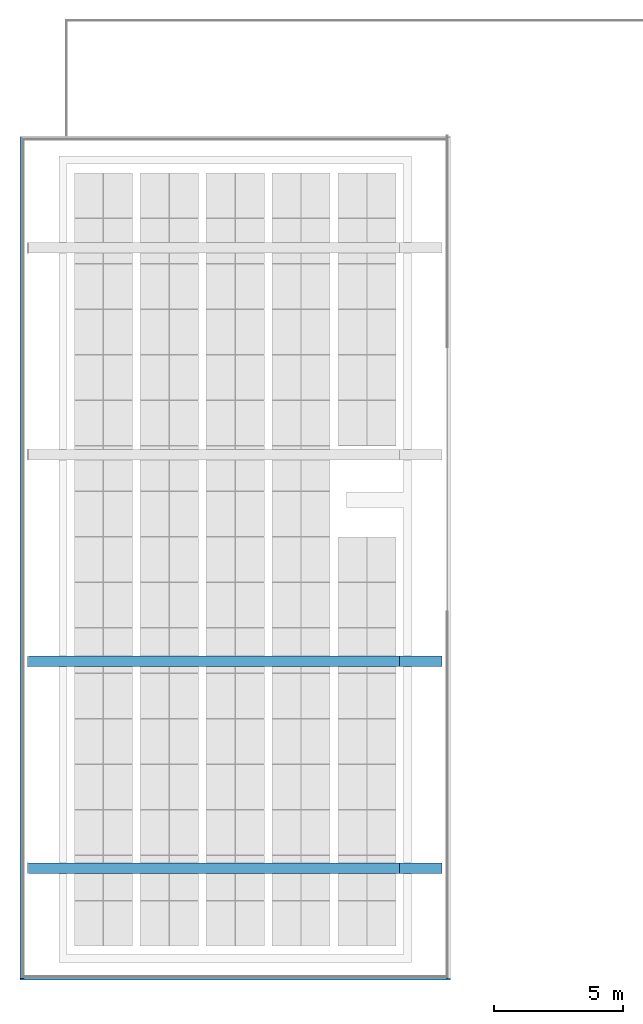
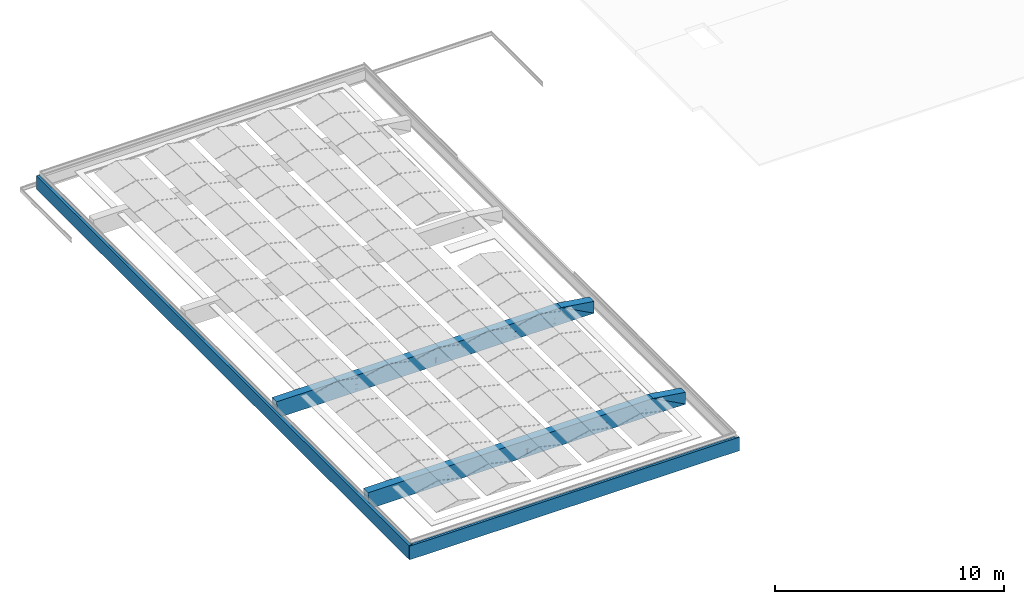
# One storey, part 2 of 25: 6 beams.
"""IFC2X3 building model written with IfcOpenShell, lengths in millimetres."""

from ifc_helpers import new_model, entity, si_unit, converted_unit, derived_unit, money_unit, direction, frame, origin_with_axes, place, context, subcontext, project, spatial, faceted_brep, material, type_object, element, save


model = new_model("IFC2X3")

# Units and contexts
model_context = context("Model", 3, precision=0.01, world=origin_with_axes(), true_north=direction((0.0, 1.0)))
body_context = subcontext(model_context, "Body", "Model", "MODEL_VIEW")
ifc_project = project(units=[si_unit("LENGTHUNIT", "METRE", prefix="MILLI"), si_unit("AREAUNIT", "SQUARE_METRE"), si_unit("VOLUMEUNIT", "CUBIC_METRE"), converted_unit("PLANEANGLEUNIT", "DEGREE", entity("IfcPlaneAngleMeasure", 0.0174532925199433), si_unit("PLANEANGLEUNIT", "RADIAN"), dimensions=[0, 0, 0, 0, 0, 0, 0]), money_unit("EUR"), converted_unit("TIMEUNIT", "Year", entity("IfcTimeMeasure", 31557600.0), si_unit("TIMEUNIT", "SECOND"), dimensions=[0, 0, 1, 0, 0, 0, 0]), si_unit("MASSUNIT", "GRAM", prefix="KILO"), si_unit("THERMODYNAMICTEMPERATUREUNIT", "DEGREE_CELSIUS"), si_unit("LUMINOUSINTENSITYUNIT", "LUMEN"), si_unit("ENERGYUNIT", "JOULE", prefix="MEGA"), derived_unit("THERMALCONDUCTANCEUNIT", [(si_unit("POWERUNIT", "WATT"), 1), (si_unit("LENGTHUNIT", "METRE"), -1), (si_unit("THERMODYNAMICTEMPERATUREUNIT", "KELVIN"), -1)]), derived_unit("SPECIFICHEATCAPACITYUNIT", [(si_unit("ENERGYUNIT", "JOULE"), 1), (si_unit("MASSUNIT", "GRAM", prefix="KILO"), -1), (si_unit("THERMODYNAMICTEMPERATUREUNIT", "KELVIN"), -1)]), derived_unit("MASSDENSITYUNIT", [(si_unit("MASSUNIT", "GRAM", prefix="KILO"), 1), (si_unit("VOLUMEUNIT", "CUBIC_METRE"), -1)])], contexts=[model_context])

# Site, building, storey
site_placement = place(None, origin_with_axes())
site = spatial("IfcSite", under=ifc_project, at=site_placement, Name="<site naam>", CompositionType="ELEMENT")
building_placement = place(site_placement, origin_with_axes())
building = spatial("IfcBuilding", under=site, at=building_placement, Name="<Naam gebouw>", CompositionType="ELEMENT")
storey_placement = place(building_placement, frame((0.0, 0.0, 9563.0), z_axis=(0.0, 0.0, 1.0), x_axis=(1.0, 0.0, 0.0)))
storey = spatial("IfcBuildingStorey", under=building, at=storey_placement, Name="03 3e tussenverdieping", CompositionType="ELEMENT", Elevation=9563.0)

# Beams
ifc_material = material(Name="beton_gewapend_prefab")
beam_type_1 = type_object("IfcBeamType", Name="Betonbanden 160 x 760", PredefinedType="BEAM")
beam_1_placement = place(storey_placement, frame((-12264.99999999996, -12267.03171934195, -992.9999592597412), z_axis=(0.0, 0.0, 1.0), x_axis=(0.0, -1.0, 0.0)))
element("IfcBeam", 1, at=beam_1_placement, inside=storey, type_object=beam_type_1, material=ifc_material, Name="41_Balk_Betonbanden", ObjectType="BEAM", context=body_context, shape_type="Brep", body=[
    faceted_brep([(29.99999527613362, 16600.04446573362, -759.9999375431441), (29.99999527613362, 16600.04446573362, -730.0000145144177), (7.958368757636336, 16600.04446573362, -730.0000145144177), (7.958368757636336, 16600.04446573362, -30.00000230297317), (59.99999757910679, 16600.04446573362, -30.00000230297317), (59.99999757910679, 16600.04446573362, -759.9999375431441), (29.99999527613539, -59.99999757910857, -730.0000145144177), (29.99999527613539, -59.99999757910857, -759.9999375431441), (4.298053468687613e-06, 60.00000030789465, -730.0000145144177), (4.298051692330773e-06, 16480.04446784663, -730.0000145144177), (7.958368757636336, 16480.04446784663, -730.0000145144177), (7.958368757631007, -59.99999757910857, -730.0000145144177), (7.958368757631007, 60.00000030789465, -730.0000145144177), (7.958368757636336, 16440.04446100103, -100.0000001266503), (7.958368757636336, 16440.04446100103, -30.00000230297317), (7.958368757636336, 16480.04446784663, -30.00000230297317), (7.958368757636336, 16480.04446784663, -660.0000280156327), (7.958368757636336, 16540.04447245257, -660.0000280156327), (7.958368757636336, 16540.04447245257, -100.0000001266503), (-60.00000030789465, 16440.04446100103, -30.00000230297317), (-60.00000030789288, 100.0000071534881, -30.00000230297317), (7.958368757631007, 100.0000071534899, -30.00000230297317), (7.958368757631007, 60.00000030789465, -30.00000230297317), (7.958368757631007, -59.99999757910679, -30.00000230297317), (59.99999757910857, -59.99999757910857, -30.00000230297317), (59.99999757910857, -59.99999757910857, -759.9999375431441), (4.298053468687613e-06, 60.00000030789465, -759.9999375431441), (4.298051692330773e-06, 16480.04446784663, -759.9999375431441), (-60.00000030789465, 16480.04446784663, -759.9999375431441), (-60.00000030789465, 16480.04446784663, -660.0000280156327), (-29.99999800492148, 16480.04446784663, -660.0000280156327), (-29.99999800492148, 16480.04446784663, -690.0000385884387), (4.298051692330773e-06, 16480.04446784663, -690.0000385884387), (4.298051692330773e-06, 16480.04446784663, -660.0000280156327), (7.958368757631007, 100.0000071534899, -100.0000001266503), (7.958368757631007, -4.298053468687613e-06, -100.0000001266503), (7.958368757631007, -4.298053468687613e-06, -660.0000280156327), (7.958368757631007, 60.00000030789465, -660.0000280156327), (4.298053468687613e-06, 60.00000030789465, -660.0000280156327), (4.298053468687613e-06, 60.00000030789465, -690.0000385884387), (-29.9999980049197, 60.00000030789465, -690.0000385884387), (-29.9999980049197, 60.00000030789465, -660.0000280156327), (-60.00000030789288, 60.00000030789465, -660.0000280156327), (-60.00000030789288, 60.00000030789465, -759.9999375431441), (4.298051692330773e-06, 16440.04446100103, -100.0000001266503), (-100.0000071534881, 16440.04446100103, -100.0000001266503), (-100.0000071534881, 16440.04446100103, 0.0), (-60.00000030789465, 16440.04446100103, 0.0), (4.298051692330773e-06, 16540.04447245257, -660.0000280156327), (4.298051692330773e-06, 16540.04447245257, -100.0000001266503), (-60.00000030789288, 100.0000071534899, 0.0), (-100.0000071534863, 100.0000071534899, 0.0), (-100.0000071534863, 100.0000071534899, -100.0000001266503), (4.298053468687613e-06, 100.0000071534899, -100.0000001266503), (4.298053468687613e-06, -4.298053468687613e-06, -660.0000280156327), (4.298053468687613e-06, -4.298053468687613e-06, -100.0000001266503)], [[[0, 1, 2, 3, 4, 5]], [[6, 1, 0, 7]], [[8, 9, 10, 2, 1, 6, 11, 12]], [[13, 14, 15, 3, 2, 10, 16, 17, 18]], [[3, 15, 14, 19, 20, 21, 22, 23, 24, 4]], [[25, 5, 4, 24]], [[7, 0, 5, 25]], [[7, 25, 24, 23, 11, 6]], [[8, 26, 27, 9]], [[9, 27, 28, 29, 30, 31, 32, 33, 16, 10]], [[12, 11, 23, 22, 21, 34, 35, 36, 37]], [[38, 39, 40, 41, 42, 43, 26, 8, 12, 37]], [[13, 44, 45, 46, 47, 19, 14]], [[17, 16, 33, 48]], [[18, 17, 48, 49]], [[13, 18, 49, 44]], [[50, 20, 19, 47]], [[34, 21, 20, 50, 51, 52, 53]], [[26, 43, 28, 27]], [[43, 42, 29, 28]], [[42, 41, 30, 29]], [[41, 40, 31, 30]], [[40, 39, 32, 31]], [[49, 48, 33, 32, 39, 38, 54, 55, 53, 44]], [[55, 35, 34, 53]], [[54, 36, 35, 55]], [[38, 37, 36, 54]], [[53, 52, 45, 44]], [[52, 51, 46, 45]], [[51, 50, 47, 46]]]),
])
beam_2_placement = place(storey_placement, frame((-12264.99999999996, 20275.00000000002, -992.9999592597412), z_axis=(0.0, 0.0, 1.0), x_axis=(-1.0, 0.0, 0.0)))
element("IfcBeam", 2, at=beam_2_placement, inside=storey, type_object=beam_type_1, material=ifc_material, Name="41_Balk_Betonbanden", ObjectType="BEAM", context=body_context, shape_type="Brep", body=[
    faceted_brep([(-60.00000030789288, 0.0, 0.0), (-60.00000030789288, 0.0, -30.00000230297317), (-60.00000030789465, 32549.9900880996, -30.00000230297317), (-60.00000030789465, 32549.9900880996, 0.0), (59.99999757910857, 0.0, -759.9999375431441), (59.99999757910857, 0.0, -30.00000230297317), (-100.0000071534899, 0.0, 0.0), (-100.0000071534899, 0.0, -100.0000001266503), (4.298053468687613e-06, 0.0, -100.0000001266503), (4.298053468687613e-06, 0.0, -690.0000385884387), (-29.9999980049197, 0.0, -690.0000385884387), (-29.9999980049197, 0.0, -660.0000280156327), (-60.00000030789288, 0.0, -660.0000280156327), (-60.00000030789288, 0.0, -759.9999375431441), (4.298053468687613e-06, 0.0, -759.9999375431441), (4.298053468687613e-06, 0.0, -730.0000145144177), (29.99999527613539, 0.0, -730.0000145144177), (29.99999527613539, 0.0, -759.9999375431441), (59.99999757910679, 32549.9900880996, -30.00000230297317), (-100.0000071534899, 32549.9900880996, 0.0), (59.99999757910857, 32549.9900880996, -759.9999375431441), (29.99999527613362, 32549.9900880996, -759.9999375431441), (29.99999527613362, 32549.9900880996, -730.0000145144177), (4.298053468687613e-06, 32549.9900880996, -730.0000145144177), (4.298053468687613e-06, 32549.9900880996, -759.9999375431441), (-60.00000030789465, 32549.9900880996, -759.9999375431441), (-60.00000030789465, 32549.9900880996, -660.0000280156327), (-29.9999980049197, 32549.9900880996, -660.0000280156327), (-29.9999980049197, 32549.9900880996, -690.0000385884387), (4.298053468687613e-06, 32549.9900880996, -690.0000385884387), (4.298053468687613e-06, 32549.9900880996, -100.0000001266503), (-100.0000071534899, 32549.9900880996, -100.0000001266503)], [[[0, 1, 2, 3]], [[4, 5, 1, 0, 6, 7, 8, 9, 10, 11, 12, 13, 14, 15, 16, 17]], [[1, 5, 18, 2]], [[19, 3, 2, 18, 20, 21, 22, 23, 24, 25, 26, 27, 28, 29, 30, 31]], [[6, 0, 3, 19]], [[5, 4, 20, 18]], [[7, 6, 19, 31]], [[8, 7, 31, 30]], [[9, 8, 30, 29]], [[10, 9, 29, 28]], [[11, 10, 28, 27]], [[12, 11, 27, 26]], [[13, 12, 26, 25]], [[14, 13, 25, 24]], [[15, 14, 24, 23]], [[16, 15, 23, 22]], [[17, 16, 22, 21]], [[4, 17, 21, 20]]]),
])
beam_type_2 = type_object("IfcBeamType", Name="beton_gewapend_prefab 400 x 880", PredefinedType="BEAM")
beam_3_placement = place(storey_placement, frame((-10349.99999999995, -7999.999999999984, -773.0000000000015), z_axis=(0.0, 0.0, 1.0), x_axis=(0.0, -1.0, 0.0)))
element("IfcBeam", 3, at=beam_3_placement, inside=storey, type_object=beam_type_2, material=ifc_material, Name="28_Balk_beton_gewapend_prefab", ObjectType="BEAM", context=body_context, shape_type="Brep", body=[
    faceted_brep([(200.000000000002, -1625.067700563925, -879.9999999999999), (199.9999999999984, 14350.00064523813, -879.9999999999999), (199.9999999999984, 12700.0, 0.0), (200.000000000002, -1685.000000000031, 0.0), (199.9999999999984, 12293.49995746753, -730.0002447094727), (199.9999999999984, 12293.49999705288, -715.9002124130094), (199.9999999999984, 12345.30019652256, -715.9002124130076), (199.9999999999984, 12345.30019652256, -484.0999999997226), (199.9999999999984, 12293.49999705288, -484.0999999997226), (199.9999999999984, 12293.49995746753, -469.9999999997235), (199.9999999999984, 12406.50043557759, -469.9999999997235), (199.9999999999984, 12406.50039599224, -484.0999999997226), (199.9999999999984, 12354.70019652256, -484.0999999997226), (199.9999999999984, 12354.70019652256, -715.9002124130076), (199.9999999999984, 12406.50039599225, -715.9002124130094), (199.9999999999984, 12406.50043557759, -730.0002447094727), (199.9999999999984, 10293.49999705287, -715.9002124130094), (199.9999999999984, 10345.30019652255, -715.9002124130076), (199.9999999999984, 10345.30019652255, -484.0999999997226), (199.9999999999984, 10293.49999705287, -484.0999999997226), (199.9999999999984, 10293.49995746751, -469.9999999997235), (199.9999999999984, 10406.50043557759, -469.9999999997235), (199.9999999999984, 10406.50039599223, -484.0999999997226), (199.9999999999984, 10354.70019652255, -484.0999999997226), (199.9999999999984, 10354.70019652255, -715.9002124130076), (199.9999999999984, 10406.50039599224, -715.9002124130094), (199.9999999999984, 10406.50043557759, -730.0002447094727), (199.9999999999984, 10293.49995746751, -730.0002447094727), (199.9999999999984, 6345.299999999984, -715.9002124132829), (199.9999999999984, 6345.299999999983, -484.099999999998), (199.9999999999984, 6293.499800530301, -484.099999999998), (199.9999999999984, 6293.499760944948, -469.9999999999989), (199.9999999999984, 6406.500239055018, -469.9999999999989), (199.9999999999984, 6406.500199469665, -484.099999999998), (199.9999999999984, 6354.699999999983, -484.099999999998), (199.9999999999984, 6354.699999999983, -715.9002124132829), (199.9999999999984, 6406.50019946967, -715.9002124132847), (199.9999999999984, 6406.500239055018, -730.000244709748), (199.9999999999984, 6293.499760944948, -730.000244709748), (199.9999999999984, 6293.499800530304, -715.9002124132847), (199.9999999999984, 2345.300196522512, -484.0999992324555), (199.9999999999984, 2293.499997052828, -484.0999992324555), (199.9999999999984, 2293.499957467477, -469.9999992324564), (199.9999999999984, 2406.500435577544, -469.9999992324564), (199.9999999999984, 2406.500395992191, -484.0999992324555), (199.9999999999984, 2354.700196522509, -484.0999992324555), (199.9999999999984, 2354.700196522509, -715.9002116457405), (199.9999999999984, 2406.500395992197, -715.9002116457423), (199.9999999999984, 2406.500435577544, -730.0002439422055), (199.9999999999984, 2293.499957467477, -730.0002439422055), (199.9999999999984, 2293.499997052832, -715.9002116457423), (199.9999999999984, 2345.300196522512, -715.9002116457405), (-199.9999999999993, -1625.067700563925, -879.9999999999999), (-200.0000000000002, 14350.00064523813, -879.9999999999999), (-200.0000000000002, 12700.0, 0.0), (-200.0000000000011, -1685.000000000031, 0.0), (-200.0000000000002, 12293.49995746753, -730.0002447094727), (-200.0000000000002, 12293.49999705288, -715.9002124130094), (-200.0000000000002, 12345.30019652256, -715.9002124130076), (-200.0000000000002, 12345.30019652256, -484.0999999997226), (-200.0000000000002, 12293.49999705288, -484.0999999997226), (-200.0000000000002, 12293.49995746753, -469.9999999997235), (-200.0000000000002, 12406.50043557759, -469.9999999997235), (-200.0000000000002, 12406.50039599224, -484.0999999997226), (-200.0000000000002, 12354.70019652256, -484.0999999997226), (-200.0000000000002, 12354.70019652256, -715.9002124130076), (-200.0000000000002, 12406.50039599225, -715.9002124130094), (-200.0000000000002, 12406.50043557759, -730.0002447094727), (-200.0000000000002, 10345.30019652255, -715.9002124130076), (-200.0000000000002, 10293.49999705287, -715.9002124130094), (-200.0000000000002, 10345.30019652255, -484.0999999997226), (-200.0000000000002, 10293.49999705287, -484.0999999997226), (-200.0000000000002, 10293.49995746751, -469.9999999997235), (-200.0000000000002, 10406.50043557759, -469.9999999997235), (-200.0000000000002, 10406.50039599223, -484.0999999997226), (-200.0000000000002, 10354.70019652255, -484.0999999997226), (-200.0000000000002, 10354.70019652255, -715.9002124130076), (-200.0000000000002, 10406.50039599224, -715.9002124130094), (-200.0000000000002, 10406.50043557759, -730.0002447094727), (-200.0000000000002, 10293.49995746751, -730.0002447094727), (-200.0000000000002, 6345.299999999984, -715.9002124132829), (-200.0000000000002, 6345.299999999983, -484.099999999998), (-200.0000000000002, 6293.499800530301, -484.099999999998), (-200.0000000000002, 6293.499760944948, -469.9999999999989), (-200.0000000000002, 6406.500239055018, -469.9999999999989), (-200.0000000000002, 6406.500199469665, -484.099999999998), (-200.0000000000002, 6354.699999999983, -484.099999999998), (-200.0000000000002, 6354.699999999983, -715.9002124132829), (-200.0000000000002, 6406.50019946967, -715.9002124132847), (-200.0000000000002, 6406.500239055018, -730.000244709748), (-200.0000000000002, 6293.499760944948, -730.000244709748), (-200.0000000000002, 6293.499800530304, -715.9002124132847), (-200.0000000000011, 2345.300196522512, -484.0999992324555), (-200.0000000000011, 2293.499997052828, -484.0999992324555), (-200.0000000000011, 2293.499957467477, -469.9999992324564), (-200.0000000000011, 2406.500435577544, -469.9999992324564), (-200.0000000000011, 2406.500395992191, -484.0999992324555), (-200.0000000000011, 2354.700196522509, -484.0999992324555), (-200.0000000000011, 2354.700196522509, -715.9002116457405), (-200.0000000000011, 2406.500395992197, -715.9002116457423), (-200.0000000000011, 2406.500435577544, -730.0002439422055), (-200.0000000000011, 2293.499957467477, -730.0002439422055), (-200.0000000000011, 2293.499997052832, -715.9002116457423), (-200.0000000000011, 2345.300196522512, -715.9002116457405)], [[[0, 1, 2, 3], [4, 5, 6, 7, 8, 9, 10, 11, 12, 13, 14, 15], [16, 17, 18, 19, 20, 21, 22, 23, 24, 25, 26, 27], [28, 29, 30, 31, 32, 33, 34, 35, 36, 37, 38, 39], [40, 41, 42, 43, 44, 45, 46, 47, 48, 49, 50, 51]], [[52, 53, 1, 0]], [[1, 53, 54, 2]], [[3, 2, 54, 55]], [[55, 52, 0, 3]], [[56, 57, 5, 4]], [[57, 58, 6, 5]], [[58, 59, 7, 6]], [[59, 60, 8, 7]], [[60, 61, 9, 8]], [[61, 62, 10, 9]], [[62, 63, 11, 10]], [[63, 64, 12, 11]], [[64, 65, 13, 12]], [[65, 66, 14, 13]], [[66, 67, 15, 14]], [[67, 56, 4, 15]], [[68, 17, 16, 69]], [[70, 18, 17, 68]], [[71, 19, 18, 70]], [[72, 20, 19, 71]], [[73, 21, 20, 72]], [[74, 22, 21, 73]], [[75, 23, 22, 74]], [[76, 24, 23, 75]], [[77, 25, 24, 76]], [[78, 26, 25, 77]], [[79, 27, 26, 78]], [[69, 16, 27, 79]], [[29, 28, 80, 81]], [[30, 29, 81, 82]], [[31, 30, 82, 83]], [[32, 31, 83, 84]], [[33, 32, 84, 85]], [[34, 33, 85, 86]], [[35, 34, 86, 87]], [[36, 35, 87, 88]], [[37, 36, 88, 89]], [[38, 37, 89, 90]], [[39, 38, 90, 91]], [[28, 39, 91, 80]], [[40, 92, 93, 41]], [[41, 93, 94, 42]], [[42, 94, 95, 43]], [[43, 95, 96, 44]], [[44, 96, 97, 45]], [[45, 97, 98, 46]], [[46, 98, 99, 47]], [[47, 99, 100, 48]], [[48, 100, 101, 49]], [[49, 101, 102, 50]], [[50, 102, 103, 51]], [[51, 103, 92, 40]], [[55, 54, 53, 52], [56, 67, 66, 65, 64, 63, 62, 61, 60, 59, 58, 57], [78, 77, 76, 75, 74, 73, 72, 71, 70, 68, 69, 79], [88, 87, 86, 85, 84, 83, 82, 81, 80, 91, 90, 89], [98, 97, 96, 95, 94, 93, 92, 103, 102, 101, 100, 99]]]),
])
beam_4_placement = place(storey_placement, frame((-10349.99999999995, 0.0, -773.0000000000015), z_axis=(0.0, 0.0, 1.0), x_axis=(0.0, -1.0, 0.0)))
element("IfcBeam", 4, at=beam_4_placement, inside=storey, type_object=beam_type_2, material=ifc_material, Name="28_Balk_beton_gewapend_prefab", ObjectType="BEAM", context=body_context, shape_type="Brep", body=[
    faceted_brep([(200.0000000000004, -1625.067700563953, -879.9999999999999), (199.9999999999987, 14350.00064523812, -879.9999999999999), (199.999999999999, 12700.0, 0.0), (200.0000000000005, -1685.000000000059, 0.0), (199.9999999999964, 12293.49995746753, -730.0002447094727), (199.9999999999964, 12293.49999705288, -715.9002124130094), (199.9999999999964, 12345.30019652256, -715.9002124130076), (199.9999999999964, 12345.30019652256, -484.0999999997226), (199.9999999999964, 12293.49999705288, -484.0999999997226), (199.9999999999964, 12293.49995746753, -469.9999999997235), (199.9999999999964, 12406.50043557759, -469.9999999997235), (199.9999999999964, 12406.50039599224, -484.0999999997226), (199.9999999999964, 12354.70019652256, -484.0999999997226), (199.9999999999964, 12354.70019652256, -715.9002124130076), (199.9999999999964, 12406.50039599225, -715.9002124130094), (199.9999999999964, 12406.50043557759, -730.0002447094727), (200.0000000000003, 10293.49999705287, -715.9002124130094), (200.0000000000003, 10345.30019652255, -715.9002124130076), (200.0000000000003, 10345.30019652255, -484.0999999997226), (200.0000000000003, 10293.49999705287, -484.0999999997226), (200.0000000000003, 10293.49995746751, -469.9999999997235), (200.0000000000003, 10406.50043557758, -469.9999999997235), (200.0000000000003, 10406.50039599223, -484.0999999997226), (200.0000000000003, 10354.70019652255, -484.0999999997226), (200.0000000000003, 10354.70019652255, -715.9002124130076), (200.0000000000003, 10406.50039599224, -715.9002124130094), (200.0000000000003, 10406.50043557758, -730.0002447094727), (200.0000000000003, 10293.49995746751, -730.0002447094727), (200.0000000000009, 6345.299999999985, -715.9002124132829), (200.0000000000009, 6345.299999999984, -484.099999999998), (200.000000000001, 6293.499800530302, -484.099999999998), (200.000000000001, 6293.499760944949, -469.9999999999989), (200.0000000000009, 6406.500239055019, -469.9999999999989), (200.0000000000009, 6406.500199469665, -484.099999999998), (200.0000000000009, 6354.699999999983, -484.099999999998), (200.0000000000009, 6354.699999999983, -715.9002124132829), (200.0000000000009, 6406.50019946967, -715.9002124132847), (200.0000000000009, 6406.500239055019, -730.000244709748), (200.000000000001, 6293.499760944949, -730.000244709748), (200.000000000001, 6293.499800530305, -715.9002124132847), (199.999999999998, 2345.300196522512, -484.0999992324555), (199.999999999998, 2293.499997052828, -484.0999992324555), (199.999999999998, 2293.499957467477, -469.9999992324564), (199.999999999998, 2406.500435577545, -469.9999992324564), (199.999999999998, 2406.500395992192, -484.0999992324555), (199.999999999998, 2354.700196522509, -484.0999992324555), (199.999999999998, 2354.700196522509, -715.9002116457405), (199.999999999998, 2406.500395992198, -715.9002116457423), (199.999999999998, 2406.500435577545, -730.0002439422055), (199.999999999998, 2293.499957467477, -730.0002439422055), (199.999999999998, 2293.499997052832, -715.9002116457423), (199.999999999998, 2345.300196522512, -715.9002116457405), (-199.9999999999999, -1625.067700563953, -879.9999999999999), (-200.0000000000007, 14350.00064523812, -879.9999999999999), (-200.0000000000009, 12700.0, 0.0), (-199.9999999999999, -1685.000000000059, 0.0), (-200.0000000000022, 12293.49995746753, -730.0002447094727), (-200.0000000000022, 12293.49999705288, -715.9002124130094), (-200.0000000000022, 12345.30019652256, -715.9002124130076), (-200.0000000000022, 12345.30019652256, -484.0999999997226), (-200.0000000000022, 12293.49999705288, -484.0999999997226), (-200.0000000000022, 12293.49995746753, -469.9999999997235), (-200.0000000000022, 12406.50043557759, -469.9999999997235), (-200.0000000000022, 12406.50039599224, -484.0999999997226), (-200.0000000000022, 12354.70019652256, -484.0999999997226), (-200.0000000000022, 12354.70019652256, -715.9002124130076), (-200.0000000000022, 12406.50039599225, -715.9002124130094), (-200.0000000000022, 12406.50043557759, -730.0002447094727), (-200.0000000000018, 10345.30019652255, -715.9002124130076), (-200.0000000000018, 10293.49999705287, -715.9002124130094), (-200.0000000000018, 10345.30019652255, -484.0999999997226), (-200.0000000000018, 10293.49999705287, -484.0999999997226), (-200.0000000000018, 10293.49995746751, -469.9999999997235), (-200.0000000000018, 10406.50043557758, -469.9999999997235), (-200.0000000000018, 10406.50039599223, -484.0999999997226), (-200.0000000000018, 10354.70019652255, -484.0999999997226), (-200.0000000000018, 10354.70019652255, -715.9002124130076), (-200.0000000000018, 10406.50039599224, -715.9002124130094), (-200.0000000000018, 10406.50043557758, -730.0002447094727), (-200.0000000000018, 10293.49995746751, -730.0002447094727), (-200.0000000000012, 6345.299999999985, -715.9002124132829), (-200.0000000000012, 6345.299999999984, -484.099999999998), (-200.0000000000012, 6293.499800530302, -484.099999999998), (-200.0000000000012, 6293.499760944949, -469.9999999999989), (-200.0000000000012, 6406.500239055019, -469.9999999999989), (-200.0000000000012, 6406.500199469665, -484.099999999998), (-200.0000000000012, 6354.699999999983, -484.099999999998), (-200.0000000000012, 6354.699999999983, -715.9002124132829), (-200.0000000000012, 6406.50019946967, -715.9002124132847), (-200.0000000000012, 6406.500239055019, -730.000244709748), (-200.0000000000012, 6293.499760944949, -730.000244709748), (-200.0000000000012, 6293.499800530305, -715.9002124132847), (-200.0000000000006, 2345.300196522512, -484.0999992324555), (-200.0000000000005, 2293.499997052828, -484.0999992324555), (-200.0000000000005, 2293.499957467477, -469.9999992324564), (-200.0000000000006, 2406.500435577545, -469.9999992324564), (-200.0000000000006, 2406.500395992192, -484.0999992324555), (-200.0000000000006, 2354.700196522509, -484.0999992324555), (-200.0000000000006, 2354.700196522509, -715.9002116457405), (-200.0000000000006, 2406.500395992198, -715.9002116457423), (-200.0000000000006, 2406.500435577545, -730.0002439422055), (-200.0000000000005, 2293.499957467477, -730.0002439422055), (-200.0000000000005, 2293.499997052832, -715.9002116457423), (-200.0000000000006, 2345.300196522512, -715.9002116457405)], [[[0, 1, 2, 3], [4, 5, 6, 7, 8, 9, 10, 11, 12, 13, 14, 15], [16, 17, 18, 19, 20, 21, 22, 23, 24, 25, 26, 27], [28, 29, 30, 31, 32, 33, 34, 35, 36, 37, 38, 39], [40, 41, 42, 43, 44, 45, 46, 47, 48, 49, 50, 51]], [[52, 53, 1, 0]], [[1, 53, 54, 2]], [[3, 2, 54, 55]], [[55, 52, 0, 3]], [[56, 57, 5, 4]], [[57, 58, 6, 5]], [[58, 59, 7, 6]], [[59, 60, 8, 7]], [[60, 61, 9, 8]], [[61, 62, 10, 9]], [[62, 63, 11, 10]], [[63, 64, 12, 11]], [[64, 65, 13, 12]], [[65, 66, 14, 13]], [[66, 67, 15, 14]], [[67, 56, 4, 15]], [[68, 17, 16, 69]], [[70, 18, 17, 68]], [[71, 19, 18, 70]], [[72, 20, 19, 71]], [[73, 21, 20, 72]], [[74, 22, 21, 73]], [[75, 23, 22, 74]], [[76, 24, 23, 75]], [[77, 25, 24, 76]], [[78, 26, 25, 77]], [[79, 27, 26, 78]], [[69, 16, 27, 79]], [[29, 28, 80, 81]], [[30, 29, 81, 82]], [[31, 30, 82, 83]], [[32, 31, 83, 84]], [[33, 32, 84, 85]], [[34, 33, 85, 86]], [[35, 34, 86, 87]], [[36, 35, 87, 88]], [[37, 36, 88, 89]], [[38, 37, 89, 90]], [[39, 38, 90, 91]], [[28, 39, 91, 80]], [[40, 92, 93, 41]], [[41, 93, 94, 42]], [[42, 94, 95, 43]], [[43, 95, 96, 44]], [[44, 96, 97, 45]], [[45, 97, 98, 46]], [[46, 98, 99, 47]], [[47, 99, 100, 48]], [[48, 100, 101, 49]], [[49, 101, 102, 50]], [[50, 102, 103, 51]], [[51, 103, 92, 40]], [[55, 54, 53, 52], [56, 67, 66, 65, 64, 63, 62, 61, 60, 59, 58, 57], [78, 77, 76, 75, 74, 73, 72, 71, 70, 68, 69, 79], [88, 87, 86, 85, 84, 83, 82, 81, 80, 91, 90, 89], [98, 97, 96, 95, 94, 93, 92, 103, 102, 101, 100, 99]]]),
])
beam_type_3 = type_object("IfcBeamType", Name="beton_gewapend_prefab 400 x 900", PredefinedType="BEAM")
beam_5_placement = place(storey_placement, frame((2350.000000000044, 0.0, -773.0000000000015), z_axis=(0.0, 0.0, 1.0), x_axis=(0.0, -1.0, 0.0)))
element("IfcBeam", 5, at=beam_5_placement, inside=storey, type_object=beam_type_3, material=ifc_material, Name="28_Balk_beton_gewapend_prefab", ObjectType="BEAM", context=body_context, shape_type="Brep", body=[
    faceted_brep([(-200.0000000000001, 1649.999999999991, -879.9996558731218), (-200.0, 0.0, 0.0), (-200.0000000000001, 1649.999999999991, -246.1932683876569), (200.0, 0.0, 0.0), (199.9999999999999, 1649.999999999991, -879.9996558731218), (199.9999999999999, 1649.999999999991, -246.1932683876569)], [[[0, 1, 2]], [[3, 1, 0, 4]], [[1, 3, 5, 2]], [[0, 2, 5, 4]], [[4, 5, 3]]]),
])
beam_6_placement = place(storey_placement, frame((2350.000000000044, -7999.999999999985, -773.0000000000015), z_axis=(0.0, 0.0, 1.0), x_axis=(0.0, -1.0, 0.0)))
element("IfcBeam", 6, at=beam_6_placement, inside=storey, type_object=beam_type_3, material=ifc_material, Name="28_Balk_beton_gewapend_prefab", ObjectType="BEAM", context=body_context, shape_type="Brep", body=[
    faceted_brep([(-200.0000000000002, 1649.999999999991, -879.9996558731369), (-200.0000000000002, 0.0, 0.0), (-200.0000000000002, 1649.999999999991, -246.1932683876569), (199.9999999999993, 0.0, 0.0), (199.9999999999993, 1649.999999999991, -879.9996558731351), (199.9999999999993, 1649.999999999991, -246.1932683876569)], [[[0, 1, 2]], [[3, 1, 0, 4]], [[1, 3, 5, 2]], [[0, 2, 5, 4]], [[4, 5, 3]]]),
])

save(model, "model.ifc")
